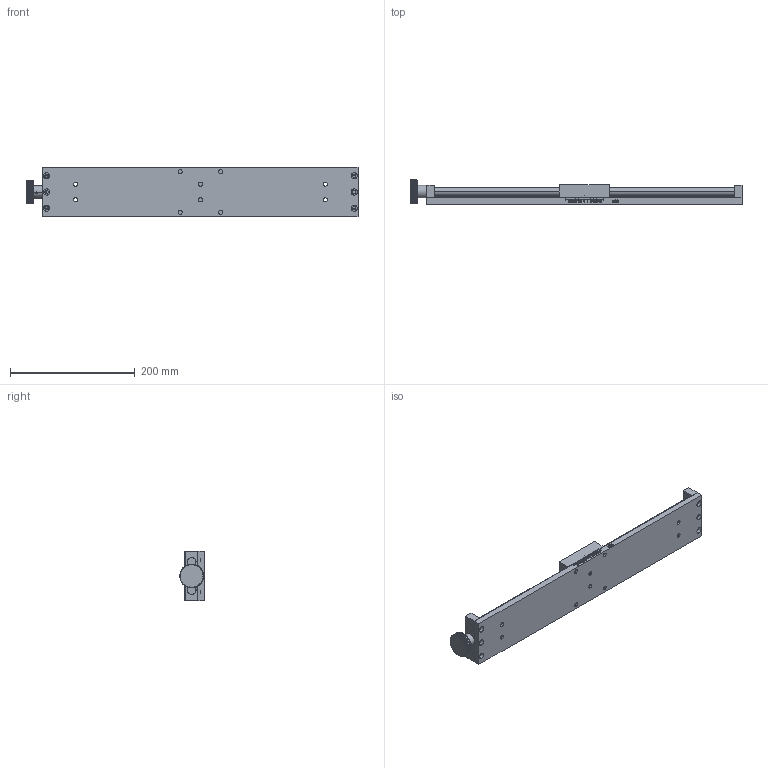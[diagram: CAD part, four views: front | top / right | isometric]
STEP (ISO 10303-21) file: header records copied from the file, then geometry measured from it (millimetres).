
FILE_DESCRIPTION (( 'STEP AP214' ), '1' );
FILE_NAME ('PT-ST400.STEP', '2022-08-21T04:05:13', ( '' ), ( '' ), 'SwSTEP 2.0', 'SolidWorks 2017', '' );
FILE_SCHEMA (( 'AUTOMOTIVE_DESIGN' ));
Length unit declared in the file: millimetre
Products named in the file (7): 菁釱3; 菁釱; PT-ST400; 唅聽38; 菁釱5; 賑輸; hex socket set screws with cone point gb_GB_FASTENER_SCREWS_HSCP M4X8-N
Assembly tree (10 placements, depth 2):
  PT-ST400
    菁釱
    菁釱3
    菁釱5
    賑輸
    hex socket set screws with cone point gb_GB_FASTENER_SCREWS_HSCP M4X8-N  x5
    唅聽38
Bounding box: 532 x 39 x 80 mm (x, y, z)
Volume: 727759.8 mm3; surface area: 182317.2 mm2
Topology: 10 solids, 11 shells, 1554 faces, 4326 edges, 2850 vertices
Faces by surface type: plane 1014, bspline 292, cylinder 202, cone 46
Entity records: 60346 total; most frequent: CARTESIAN_POINT 24157, ORIENTED_EDGE 8244, DIRECTION 5946, EDGE_CURVE 4122, LINE 2768, VECTOR 2768, VERTEX_POINT 2742, AXIS2_PLACEMENT_3D 1589
